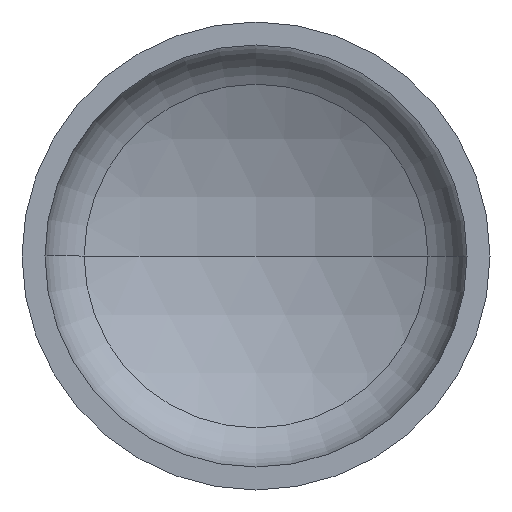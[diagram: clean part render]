
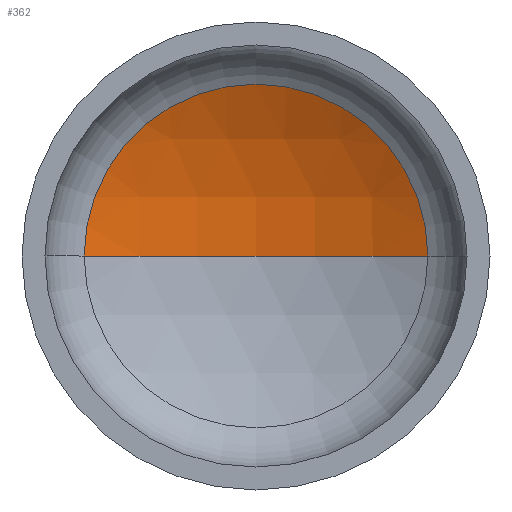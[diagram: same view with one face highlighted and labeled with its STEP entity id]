
A CAD part, front view. The second image highlights one B-rep face of the part: STEP entity #362.
In plain terms, the highlighted spherical face has radius 800 mm.
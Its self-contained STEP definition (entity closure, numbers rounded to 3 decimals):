
#1 = AXIS2_PLACEMENT_3D ( 'NONE', #405, #284, #339 ) ;
#5 = CARTESIAN_POINT ( 'NONE',  ( 0., 287.714, 0. ) ) ;
#8 = ORIENTED_EDGE ( 'NONE', *, *, #141, .T. ) ;
#41 = AXIS2_PLACEMENT_3D ( 'NONE', #285, #103, #123 ) ;
#42 = FACE_OUTER_BOUND ( 'NONE', #197, .T. ) ;
#49 = AXIS2_PLACEMENT_3D ( 'NONE', #5, #313, #146 ) ;
#78 = CARTESIAN_POINT ( 'NONE',  ( -367.132, 287.714, 0. ) ) ;
#100 = VERTEX_POINT ( 'NONE', #191 ) ;
#103 = DIRECTION ( 'NONE',  ( 0., 0., -1. ) ) ;
#116 = CARTESIAN_POINT ( 'NONE',  ( 0., -423.07, 0. ) ) ;
#123 = DIRECTION ( 'NONE',  ( -1., 0., 0. ) ) ;
#136 = EDGE_CURVE ( 'NONE', #100, #359, #347, .T. ) ;
#141 = EDGE_CURVE ( 'NONE', #182, #100, #213, .T. ) ;
#146 = DIRECTION ( 'NONE',  ( 1., 0., 0. ) ) ;
#154 = DIRECTION ( 'NONE',  ( -1., 0., 0. ) ) ;
#156 = SPHERICAL_SURFACE ( 'NONE', #325, 800. ) ;
#167 = CARTESIAN_POINT ( 'NONE',  ( 0., 376.93, 0. ) ) ;
#182 = VERTEX_POINT ( 'NONE', #167 ) ;
#191 = CARTESIAN_POINT ( 'NONE',  ( 367.132, 287.714, 0. ) ) ;
#197 = EDGE_LOOP ( 'NONE', ( #244, #8, #262 ) ) ;
#213 = CIRCLE ( 'NONE', #41, 800. ) ;
#244 = ORIENTED_EDGE ( 'NONE', *, *, #345, .F. ) ;
#262 = ORIENTED_EDGE ( 'NONE', *, *, #136, .T. ) ;
#284 = DIRECTION ( 'NONE',  ( 0., 0., 1. ) ) ;
#285 = CARTESIAN_POINT ( 'NONE',  ( 0., -423.07, 0. ) ) ;
#308 = CIRCLE ( 'NONE', #1, 800. ) ;
#313 = DIRECTION ( 'NONE',  ( 0., -1., 0. ) ) ;
#325 = AXIS2_PLACEMENT_3D ( 'NONE', #116, #350, #154 ) ;
#339 = DIRECTION ( 'NONE',  ( 1., 0., 0. ) ) ;
#345 = EDGE_CURVE ( 'NONE', #182, #359, #308, .T. ) ;
#347 = CIRCLE ( 'NONE', #49, 367.132 ) ;
#350 = DIRECTION ( 'NONE',  ( 0., 0., -1. ) ) ;
#359 = VERTEX_POINT ( 'NONE', #78 ) ;
#362 = ADVANCED_FACE ( 'NONE', ( #42 ), #156, .F. ) ;
#405 = CARTESIAN_POINT ( 'NONE',  ( 0., -423.07, 0. ) ) ;
